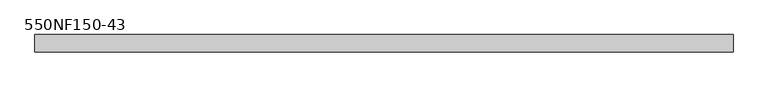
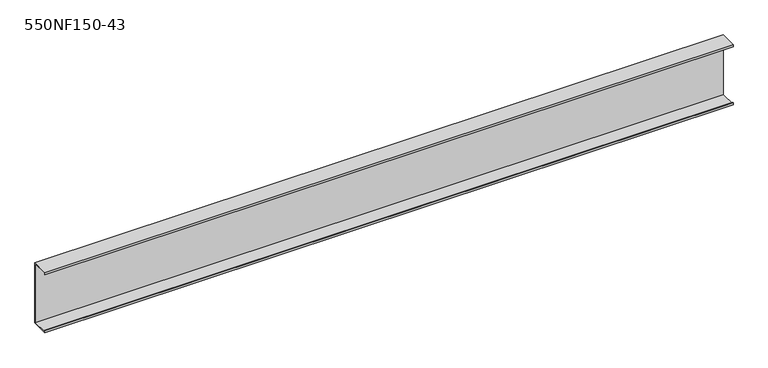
"""IFC4 building model written with IfcOpenShell, lengths in millimetres: beam geometry, BIMSF-SSMA-S : 550NF150-43."""

from ifc_helpers import new_model, si_unit, frame, origin, place, context, project, spatial, polyline, outline, extrude, source, transform, mapped, element, save


def beam_550nf150_43_8613f4e4(model_context):
    return source(origin(), model_context, "Body", "SweptSolid", [
        extrude(outline(polyline([(19.05, 69.85), (19.05, -69.85), (-19.05, -69.85), (-19.05, -65.0748), (-17.9003158, -65.0748), (-17.9003158, -68.7003158), (17.9003158, -68.7003158), (17.9003158, 68.7003158), (-17.9003158, 68.7003158), (-17.9003158, 65.0748), (-19.05, 65.0748), (-19.05, 69.85), (19.05, 69.85)])), frame((-758.825, 0.0, 0.0), z_axis=(1.0, 0.0, 0.0), x_axis=(0.0, 1.0, 0.0)), (0.0, 0.0, 1.0), 1517.65),
    ])


if __name__ == "__main__":
    model = new_model("IFC4")
    model_context = context("Model", 3, world=origin())
    ifc_project = project(units=[si_unit("LENGTHUNIT", "METRE", prefix="MILLI")], contexts=[model_context])
    site = spatial("IfcSite", under=ifc_project)
    building = spatial("IfcBuilding", under=site)
    placement = place(None, origin())
    beam_550nf150_43_shape = beam_550nf150_43_8613f4e4(model_context)
    element("IfcBeam", 1, ObjectType="BIMSF-SSMA-S : 550NF150-43", at=placement, inside=building, context=model_context, shape_type="MappedRepresentation", body=[
        mapped(beam_550nf150_43_shape, transform((0.0, 0.0, 0.0), x_axis=(1.0, 0.0, 0.0), y_axis=(0.0, 1.0, 0.0), z_axis=(0.0, 0.0, 1.0))),
    ])
    save(model, "model.ifc")
